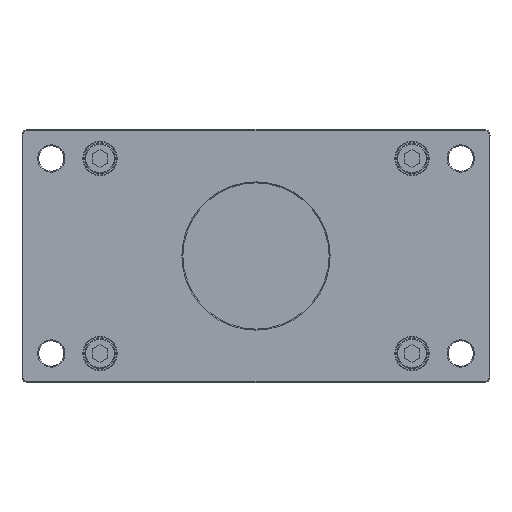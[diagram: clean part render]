
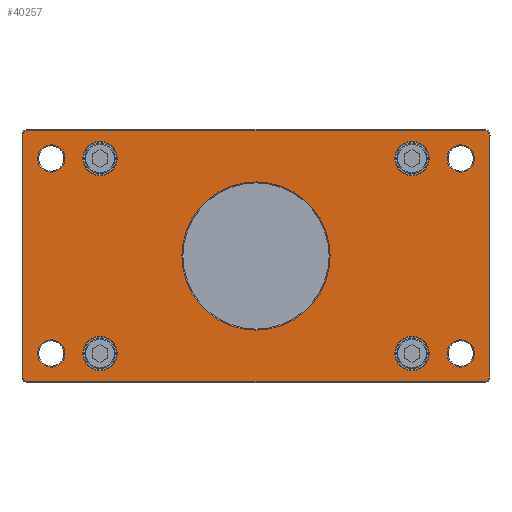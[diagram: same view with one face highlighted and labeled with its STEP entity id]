
A CAD part, front view. The second image highlights one B-rep face of the part: STEP entity #40257.
In plain terms, the highlighted planar face has unit normal (0, -1, 0) as drawn and (0, 1, 0) by its records, which use the part's own axes.
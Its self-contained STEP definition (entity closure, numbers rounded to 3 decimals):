
#38709=CARTESIAN_POINT('',(0.,9.,0.));
#38710=DIRECTION('',(0.,-1.,0.));
#38711=DIRECTION('',(1.,0.,0.));
#38712=AXIS2_PLACEMENT_3D('',#38709,#38710,#38711);
#38714=CARTESIAN_POINT('',(0.,9.,0.));
#38715=DIRECTION('',(0.,-1.,0.));
#38716=DIRECTION('',(-1.,0.,0.));
#38717=AXIS2_PLACEMENT_3D('',#38714,#38715,#38716);
#38719=CARTESIAN_POINT('',(-105.,9.,-50.));
#38720=DIRECTION('',(0.,-1.,0.));
#38721=DIRECTION('',(-1.,0.,0.));
#38722=AXIS2_PLACEMENT_3D('',#38719,#38720,#38721);
#38724=CARTESIAN_POINT('',(-105.,9.,-50.));
#38725=DIRECTION('',(0.,-1.,0.));
#38726=DIRECTION('',(1.,0.,0.));
#38727=AXIS2_PLACEMENT_3D('',#38724,#38725,#38726);
#38729=CARTESIAN_POINT('',(105.,9.,-50.));
#38730=DIRECTION('',(0.,-1.,0.));
#38731=DIRECTION('',(-1.,0.,0.));
#38732=AXIS2_PLACEMENT_3D('',#38729,#38730,#38731);
#38734=CARTESIAN_POINT('',(105.,9.,-50.));
#38735=DIRECTION('',(0.,-1.,0.));
#38736=DIRECTION('',(1.,0.,0.));
#38737=AXIS2_PLACEMENT_3D('',#38734,#38735,#38736);
#38739=CARTESIAN_POINT('',(105.,9.,50.));
#38740=DIRECTION('',(0.,-1.,0.));
#38741=DIRECTION('',(1.,0.,0.));
#38742=AXIS2_PLACEMENT_3D('',#38739,#38740,#38741);
#38744=CARTESIAN_POINT('',(105.,9.,50.));
#38745=DIRECTION('',(0.,-1.,0.));
#38746=DIRECTION('',(-1.,0.,0.));
#38747=AXIS2_PLACEMENT_3D('',#38744,#38745,#38746);
#38749=CARTESIAN_POINT('',(-105.,9.,50.));
#38750=DIRECTION('',(0.,-1.,0.));
#38751=DIRECTION('',(-1.,0.,0.));
#38752=AXIS2_PLACEMENT_3D('',#38749,#38750,#38751);
#38754=CARTESIAN_POINT('',(-105.,9.,50.));
#38755=DIRECTION('',(0.,-1.,0.));
#38756=DIRECTION('',(1.,0.,0.));
#38757=AXIS2_PLACEMENT_3D('',#38754,#38755,#38756);
#38759=CARTESIAN_POINT('',(-117.,9.,-62.));
#38760=DIRECTION('',(0.,1.,0.));
#38761=DIRECTION('',(0.,0.,-1.));
#38762=AXIS2_PLACEMENT_3D('',#38759,#38760,#38761);
#38764=DIRECTION('',(-1.,0.,0.));
#38765=VECTOR('',#38764,234.);
#38766=CARTESIAN_POINT('',(117.,9.,
-64.5));
#38767=LINE('',#38766,#38765);
#38768=CARTESIAN_POINT('',(117.,9.,-62.));
#38769=DIRECTION('',(0.,1.,0.));
#38770=DIRECTION('',(1.,0.,0.));
#38771=AXIS2_PLACEMENT_3D('',#38768,#38769,#38770);
#38773=DIRECTION('',(0.,0.,-1.));
#38774=VECTOR('',#38773,124.);
#38775=CARTESIAN_POINT('',(119.5,9.,62.));
#38776=LINE('',#38775,#38774);
#38777=CARTESIAN_POINT('',(117.,9.,62.));
#38778=DIRECTION('',(0.,1.,0.));
#38779=DIRECTION('',(0.,0.,1.));
#38780=AXIS2_PLACEMENT_3D('',#38777,#38778,#38779);
#38782=DIRECTION('',(1.,0.,0.));
#38783=VECTOR('',#38782,234.);
#38784=CARTESIAN_POINT('',(-117.,9.,
64.5));
#38785=LINE('',#38784,#38783);
#38786=CARTESIAN_POINT('',(-117.,9.,62.));
#38787=DIRECTION('',(0.,1.,0.));
#38788=DIRECTION('',(-1.,0.,0.));
#38789=AXIS2_PLACEMENT_3D('',#38786,#38787,#38788);
#38791=DIRECTION('',(0.,0.,1.));
#38792=VECTOR('',#38791,124.);
#38793=CARTESIAN_POINT('',(-119.5,9.,
-62.));
#38794=LINE('',#38793,#38792);
#38795=CARTESIAN_POINT('',(80.,9.,50.));
#38796=DIRECTION('',(0.,-1.,0.));
#38797=DIRECTION('',(1.,0.,0.));
#38798=AXIS2_PLACEMENT_3D('',#38795,#38796,#38797);
#38800=CARTESIAN_POINT('',(80.,9.,50.));
#38801=DIRECTION('',(0.,-1.,0.));
#38802=DIRECTION('',(-1.,0.,0.));
#38803=AXIS2_PLACEMENT_3D('',#38800,#38801,#38802);
#38805=CARTESIAN_POINT('',(-80.,9.,50.));
#38806=DIRECTION('',(0.,-1.,0.));
#38807=DIRECTION('',(1.,0.,0.));
#38808=AXIS2_PLACEMENT_3D('',#38805,#38806,#38807);
#38810=CARTESIAN_POINT('',(-80.,9.,50.));
#38811=DIRECTION('',(0.,-1.,0.));
#38812=DIRECTION('',(-1.,0.,0.));
#38813=AXIS2_PLACEMENT_3D('',#38810,#38811,#38812);
#38815=CARTESIAN_POINT('',(80.,9.,-50.));
#38816=DIRECTION('',(0.,-1.,0.));
#38817=DIRECTION('',(1.,0.,0.));
#38818=AXIS2_PLACEMENT_3D('',#38815,#38816,#38817);
#38820=CARTESIAN_POINT('',(80.,9.,-50.));
#38821=DIRECTION('',(0.,-1.,0.));
#38822=DIRECTION('',(-1.,0.,0.));
#38823=AXIS2_PLACEMENT_3D('',#38820,#38821,#38822);
#38825=CARTESIAN_POINT('',(-80.,9.,-50.));
#38826=DIRECTION('',(0.,-1.,0.));
#38827=DIRECTION('',(1.,0.,0.));
#38828=AXIS2_PLACEMENT_3D('',#38825,#38826,#38827);
#38830=CARTESIAN_POINT('',(-80.,9.,-50.));
#38831=DIRECTION('',(0.,-1.,0.));
#38832=DIRECTION('',(-1.,0.,0.));
#38833=AXIS2_PLACEMENT_3D('',#38830,#38831,#38832);
#39741=CARTESIAN_POINT('',(38.,9.,0.));
#39742=CARTESIAN_POINT('',(-38.,9.,0.));
#39743=VERTEX_POINT('',#39741);
#39744=VERTEX_POINT('',#39742);
#39757=CARTESIAN_POINT('',(-112.,9.,-50.));
#39758=CARTESIAN_POINT('',(-98.,9.,-50.));
#39759=VERTEX_POINT('',#39757);
#39760=VERTEX_POINT('',#39758);
#39765=CARTESIAN_POINT('',(98.,9.,-50.));
#39766=CARTESIAN_POINT('',(112.,9.,-50.));
#39767=VERTEX_POINT('',#39765);
#39768=VERTEX_POINT('',#39766);
#39773=CARTESIAN_POINT('',(112.,9.,50.));
#39774=CARTESIAN_POINT('',(98.,9.,50.));
#39775=VERTEX_POINT('',#39773);
#39776=VERTEX_POINT('',#39774);
#39781=CARTESIAN_POINT('',(-112.,9.,50.));
#39782=CARTESIAN_POINT('',(-98.,9.,50.));
#39783=VERTEX_POINT('',#39781);
#39784=VERTEX_POINT('',#39782);
#39853=CARTESIAN_POINT('',(-117.,9.,-64.5));
#39854=CARTESIAN_POINT('',(-119.5,9.,-62.));
#39855=VERTEX_POINT('',#39853);
#39856=VERTEX_POINT('',#39854);
#39861=CARTESIAN_POINT('',(-119.5,9.,
62.));
#39862=VERTEX_POINT('',#39861);
#39865=CARTESIAN_POINT('',(-117.,9.,64.5));
#39866=VERTEX_POINT('',#39865);
#39869=CARTESIAN_POINT('',(117.,9.,64.5));
#39870=VERTEX_POINT('',#39869);
#39873=CARTESIAN_POINT('',(119.5,9.,62.));
#39874=VERTEX_POINT('',#39873);
#39877=CARTESIAN_POINT('',(119.5,9.,
-62.));
#39878=VERTEX_POINT('',#39877);
#39881=CARTESIAN_POINT('',(117.,9.,-64.5));
#39882=VERTEX_POINT('',#39881);
#39901=CARTESIAN_POINT('',(88.8,9.,50.));
#39902=CARTESIAN_POINT('',(71.2,9.,50.));
#39903=VERTEX_POINT('',#39901);
#39904=VERTEX_POINT('',#39902);
#39925=CARTESIAN_POINT('',(-71.2,9.,50.));
#39926=CARTESIAN_POINT('',(-88.8,9.,50.));
#39927=VERTEX_POINT('',#39925);
#39928=VERTEX_POINT('',#39926);
#39941=CARTESIAN_POINT('',(88.8,9.,-50.));
#39942=CARTESIAN_POINT('',(71.2,9.,-50.));
#39943=VERTEX_POINT('',#39941);
#39944=VERTEX_POINT('',#39942);
#39949=CARTESIAN_POINT('',(-71.2,9.,-50.));
#39950=CARTESIAN_POINT('',(-88.8,9.,-50.));
#39951=VERTEX_POINT('',#39949);
#39952=VERTEX_POINT('',#39950);
#40181=CARTESIAN_POINT('',(0.,9.,0.));
#40182=DIRECTION('',(0.,1.,0.));
#40183=DIRECTION('',(1.,0.,0.));
#40184=AXIS2_PLACEMENT_3D('',#40181,#40182,#40183);
#40185=PLANE('',#40184);
#40187=ORIENTED_EDGE('',*,*,#40186,.F.);
#40189=ORIENTED_EDGE('',*,*,#40188,.F.);
#40191=ORIENTED_EDGE('',*,*,#40190,.F.);
#40193=ORIENTED_EDGE('',*,*,#40192,.F.);
#40195=ORIENTED_EDGE('',*,*,#40194,.F.);
#40197=ORIENTED_EDGE('',*,*,#40196,.F.);
#40199=ORIENTED_EDGE('',*,*,#40198,.F.);
#40201=ORIENTED_EDGE('',*,*,#40200,.F.);
#40202=EDGE_LOOP('',(#40187,#40189,#40191,#40193,#40195,#40197,#40199,#40201));
#40203=FACE_OUTER_BOUND('',#40202,.F.);
#40205=ORIENTED_EDGE('',*,*,#40204,.F.);
#40207=ORIENTED_EDGE('',*,*,#40206,.F.);
#40208=EDGE_LOOP('',(#40205,#40207));
#40209=FACE_BOUND('',#40208,.F.);
#40211=ORIENTED_EDGE('',*,*,#40210,.F.);
#40213=ORIENTED_EDGE('',*,*,#40212,.F.);
#40214=EDGE_LOOP('',(#40211,#40213));
#40215=FACE_BOUND('',#40214,.F.);
#40217=ORIENTED_EDGE('',*,*,#40216,.F.);
#40219=ORIENTED_EDGE('',*,*,#40218,.F.);
#40220=EDGE_LOOP('',(#40217,#40219));
#40221=FACE_BOUND('',#40220,.F.);
#40223=ORIENTED_EDGE('',*,*,#40222,.F.);
#40225=ORIENTED_EDGE('',*,*,#40224,.F.);
#40226=EDGE_LOOP('',(#40223,#40225));
#40227=FACE_BOUND('',#40226,.F.);
#40229=ORIENTED_EDGE('',*,*,#40228,.F.);
#40230=ORIENTED_EDGE('',*,*,#40171,.F.);
#40231=EDGE_LOOP('',(#40229,#40230));
#40232=FACE_BOUND('',#40231,.F.);
#40234=ORIENTED_EDGE('',*,*,#40233,.F.);
#40236=ORIENTED_EDGE('',*,*,#40235,.F.);
#40237=EDGE_LOOP('',(#40234,#40236));
#40238=FACE_BOUND('',#40237,.F.);
#40240=ORIENTED_EDGE('',*,*,#40239,.F.);
#40242=ORIENTED_EDGE('',*,*,#40241,.F.);
#40243=EDGE_LOOP('',(#40240,#40242));
#40244=FACE_BOUND('',#40243,.F.);
#40246=ORIENTED_EDGE('',*,*,#40245,.F.);
#40248=ORIENTED_EDGE('',*,*,#40247,.F.);
#40249=EDGE_LOOP('',(#40246,#40248));
#40250=FACE_BOUND('',#40249,.F.);
#40252=ORIENTED_EDGE('',*,*,#40251,.F.);
#40254=ORIENTED_EDGE('',*,*,#40253,.F.);
#40255=EDGE_LOOP('',(#40252,#40254));
#40256=FACE_BOUND('',#40255,.F.);
#40257=ADVANCED_FACE('',(#40203,#40209,#40215,#40221,#40227,#40232,#40238,
#40244,#40250,#40256),#40185,.T.);
#38713=CIRCLE('',#38712,38.);
#38718=CIRCLE('',#38717,38.);
#38723=CIRCLE('',#38722,7.);
#38728=CIRCLE('',#38727,7.);
#38733=CIRCLE('',#38732,7.);
#38738=CIRCLE('',#38737,7.);
#38743=CIRCLE('',#38742,7.);
#38748=CIRCLE('',#38747,7.);
#38753=CIRCLE('',#38752,7.);
#38758=CIRCLE('',#38757,7.);
#38763=CIRCLE('',#38762,2.5);
#38772=CIRCLE('',#38771,2.5);
#38781=CIRCLE('',#38780,2.5);
#38790=CIRCLE('',#38789,2.5);
#38799=CIRCLE('',#38798,8.8);
#38804=CIRCLE('',#38803,8.8);
#38809=CIRCLE('',#38808,8.8);
#38814=CIRCLE('',#38813,8.8);
#38819=CIRCLE('',#38818,8.8);
#38824=CIRCLE('',#38823,8.8);
#38829=CIRCLE('',#38828,8.8);
#38834=CIRCLE('',#38833,8.8);
#40171=EDGE_CURVE('',#39744,#39743,#38718,.T.);
#40186=EDGE_CURVE('',#39855,#39856,#38763,.T.);
#40188=EDGE_CURVE('',#39882,#39855,#38767,.T.);
#40190=EDGE_CURVE('',#39878,#39882,#38772,.T.);
#40192=EDGE_CURVE('',#39874,#39878,#38776,.T.);
#40194=EDGE_CURVE('',#39870,#39874,#38781,.T.);
#40196=EDGE_CURVE('',#39866,#39870,#38785,.T.);
#40198=EDGE_CURVE('',#39862,#39866,#38790,.T.);
#40200=EDGE_CURVE('',#39856,#39862,#38794,.T.);
#40204=EDGE_CURVE('',#39759,#39760,#38723,.T.);
#40206=EDGE_CURVE('',#39760,#39759,#38728,.T.);
#40210=EDGE_CURVE('',#39767,#39768,#38733,.T.);
#40212=EDGE_CURVE('',#39768,#39767,#38738,.T.);
#40216=EDGE_CURVE('',#39775,#39776,#38743,.T.);
#40218=EDGE_CURVE('',#39776,#39775,#38748,.T.);
#40222=EDGE_CURVE('',#39783,#39784,#38753,.T.);
#40224=EDGE_CURVE('',#39784,#39783,#38758,.T.);
#40228=EDGE_CURVE('',#39743,#39744,#38713,.T.);
#40233=EDGE_CURVE('',#39903,#39904,#38799,.T.);
#40235=EDGE_CURVE('',#39904,#39903,#38804,.T.);
#40239=EDGE_CURVE('',#39927,#39928,#38809,.T.);
#40241=EDGE_CURVE('',#39928,#39927,#38814,.T.);
#40245=EDGE_CURVE('',#39943,#39944,#38819,.T.);
#40247=EDGE_CURVE('',#39944,#39943,#38824,.T.);
#40251=EDGE_CURVE('',#39951,#39952,#38829,.T.);
#40253=EDGE_CURVE('',#39952,#39951,#38834,.T.);
